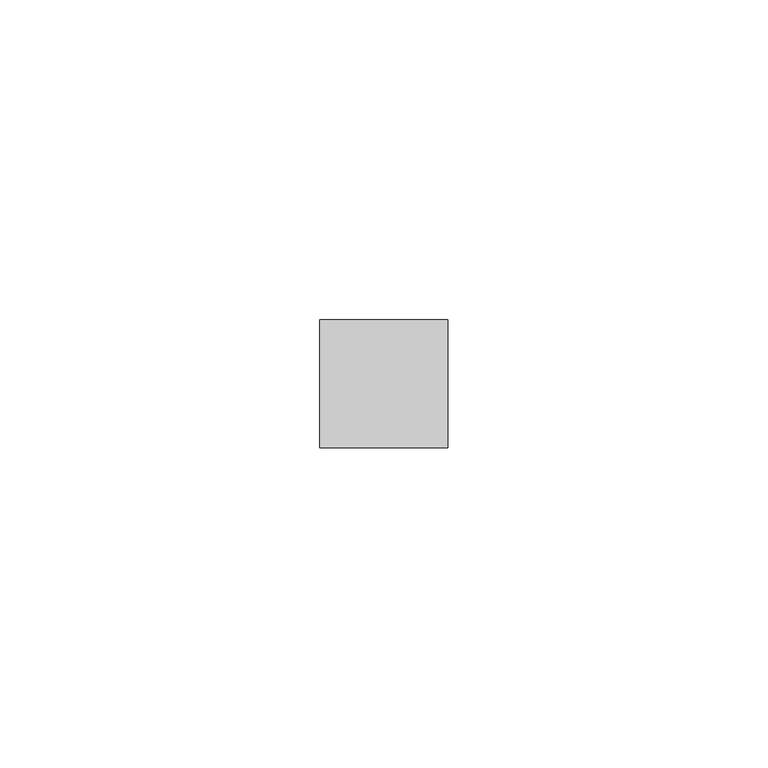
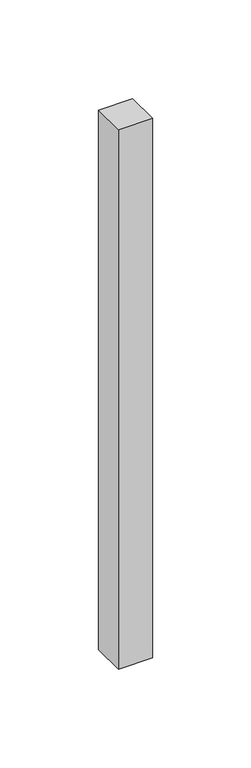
"""IFC4 building model written with IfcOpenShell, lengths in millimetres: member geometry, 矩形竖梃 : 20mm 正方形."""

from ifc_helpers import new_model, si_unit, frame, origin, place, context, project, spatial, polyline, outline, extrude, source, transform, mapped, element, save


def member_1d6e3c11(model_context):
    return source(origin(), model_context, "Body", "SweptSolid", [
        extrude(outline(polyline([(0.0, 10.0), (0.0, -10.0), (-20.0, -10.0), (-20.0, 10.0), (0.0, 10.0)])), frame((0.0, 0.0, -333.5), z_axis=(0.0, 0.0, 1.0), x_axis=(1.0, 0.0, 0.0)), (0.0, 0.0, 1.0), 333.5),
    ])


if __name__ == "__main__":
    model = new_model("IFC4")
    model_context = context("Model", 3, world=origin())
    ifc_project = project(units=[si_unit("LENGTHUNIT", "METRE", prefix="MILLI")], contexts=[model_context])
    site = spatial("IfcSite", under=ifc_project)
    building = spatial("IfcBuilding", under=site)
    placement = place(None, origin())
    member_shape = member_1d6e3c11(model_context)
    element("IfcMember", 1, ObjectType="矩形竖梃 : 20mm 正方形", at=placement, inside=building, context=model_context, shape_type="MappedRepresentation", body=[
        mapped(member_shape, transform((0.0, 0.0, 0.0), x_axis=(1.0, 0.0, 0.0), y_axis=(0.0, 1.0, 0.0), z_axis=(0.0, 0.0, 1.0))),
    ])
    save(model, "model.ifc")
